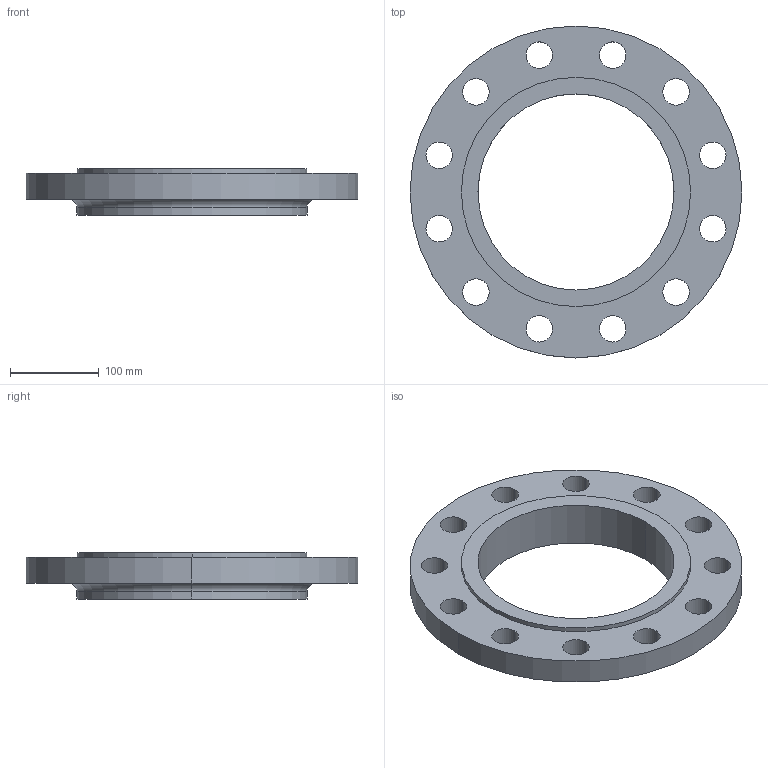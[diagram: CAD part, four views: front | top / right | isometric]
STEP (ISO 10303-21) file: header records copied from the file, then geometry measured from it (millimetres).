
FILE_DESCRIPTION (( 'STEP AP214' ), '1' );
FILE_NAME ('PN40 DN200 Type 12 - Type E Face.STEP', '2019-01-05T02:14:47', ( '' ), ( '' ), 'SwSTEP 2.0', 'SolidWorks 2019', '' );
FILE_SCHEMA (( 'AUTOMOTIVE_DESIGN' ));
Length unit declared in the file: millimetre
Products named in the file (1): PN40 DN200 Type 12 - Type E Face
Bounding box: 375 x 375 x 52 mm (x, y, z)
Volume: 2190157.4 mm3; surface area: 245319.4 mm2
Topology: 1 solids, 1 shells, 38 faces, 100 edges, 66 vertices
Faces by surface type: cylinder 32, plane 4, torus 2
Entity records: 1302 total; most frequent: DIRECTION 246, CARTESIAN_POINT 205, ORIENTED_EDGE 200, AXIS2_PLACEMENT_3D 107, EDGE_CURVE 100, CIRCLE 68, VERTEX_POINT 66, EDGE_LOOP 66
